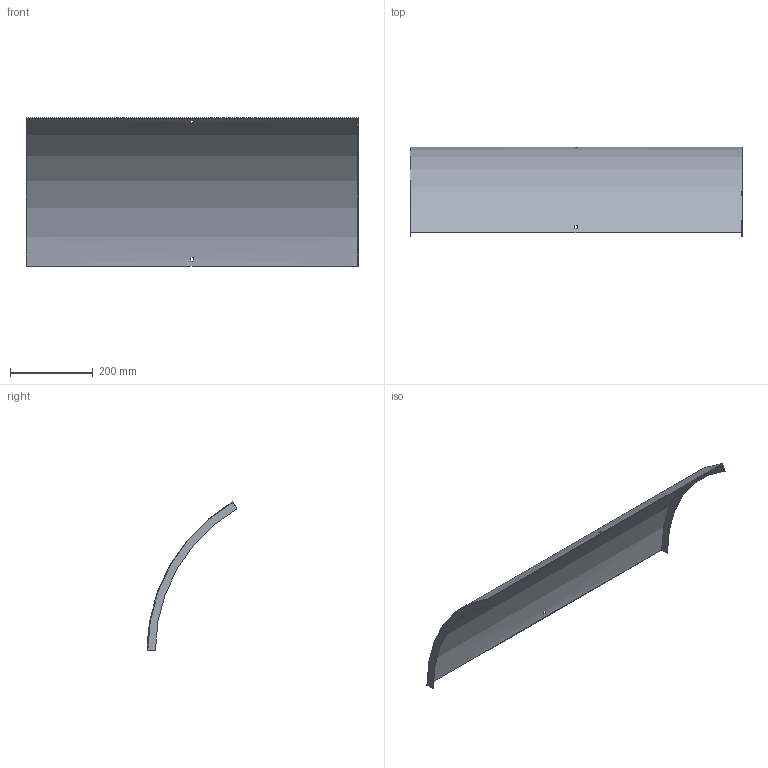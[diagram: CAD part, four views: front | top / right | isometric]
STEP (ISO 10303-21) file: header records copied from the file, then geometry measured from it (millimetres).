
FILE_DESCRIPTION (( 'STEP AP214' ), '1' );
FILE_NAME ('B2_41N3J800.step', '2025-02-21T10:42:30', ( '' ), ( '' ), 'SwSTEP 2.0', 'SolidWorks 2023', '' );
FILE_SCHEMA (( 'AUTOMOTIVE_DESIGN' ));
Length unit declared in the file: millimetre
Products named in the file (1): B2_41N3J800
Bounding box: 803 x 217 x 358.53 mm (x, y, z)
Volume: 544513.7 mm3; surface area: 729871.5 mm2
Topology: 1 solids, 1 shells, 18 faces, 48 edges, 32 vertices
Faces by surface type: plane 14, cylinder 4
Entity records: 599 total; most frequent: DIRECTION 102, CARTESIAN_POINT 99, ORIENTED_EDGE 96, EDGE_CURVE 48, AXIS2_PLACEMENT_3D 35, VERTEX_POINT 32, LINE 32, VECTOR 32
